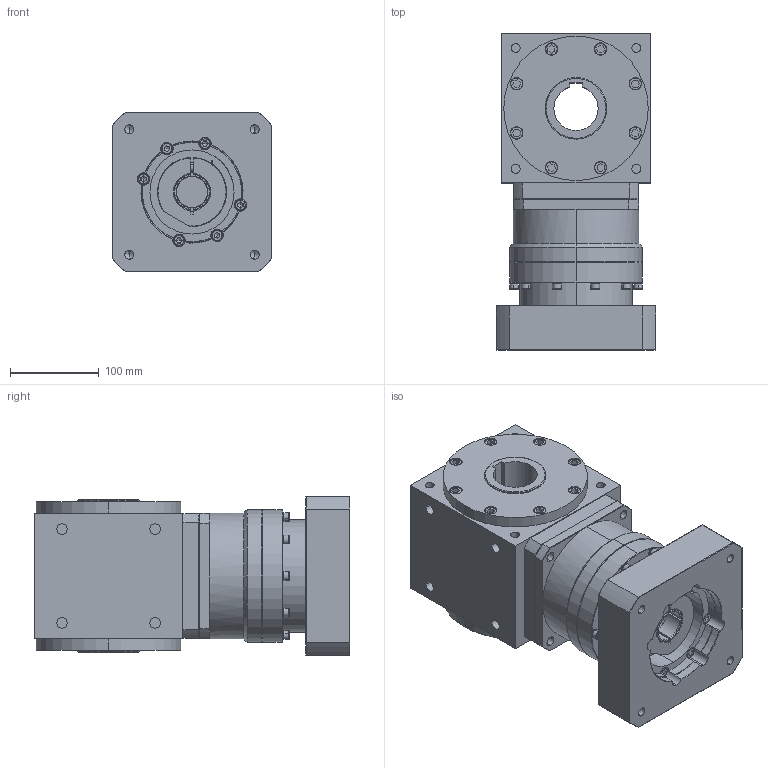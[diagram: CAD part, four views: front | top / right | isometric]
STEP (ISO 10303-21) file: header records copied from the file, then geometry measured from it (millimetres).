
FILE_DESCRIPTION (( 'STEP AP203' ), '1' );
FILE_NAME ('AAW165AS-L1-CR 35-114.3-200-M12.STEP', '2024-12-24T07:45:19', ( '' ), ( '' ), 'SwSTEP 2.0', 'SolidWorks 2021', '' );
FILE_SCHEMA (( 'CONFIG_CONTROL_DESIGN' ));
Length unit declared in the file: millimetre
Products named in the file (3): AAW165AS-L1-CR 35-114.3-200-M12; VRB-142-L1-S2-P1 35-114.3-200-M12; AAW165AS-CR
Assembly tree (2 placements, depth 2):
  AAW165AS-L1-CR 35-114.3-200-M12
    AAW165AS-CR
    VRB-142-L1-S2-P1 35-114.3-200-M12
Bounding box: 180 x 356.5 x 180 mm (x, y, z)
Volume: 7643968.2 mm3; surface area: 550301.4 mm2
Topology: 40 solids, 40 shells, 1225 faces, 2891 edges, 1814 vertices
Faces by surface type: plane 609, cylinder 421, cone 157, torus 38
Entity records: 36767 total; most frequent: CARTESIAN_POINT 7839, DIRECTION 6328, ORIENTED_EDGE 5670, EDGE_CURVE 2835, AXIS2_PLACEMENT_3D 2435, VERTEX_POINT 1814, LINE 1458, VECTOR 1458
